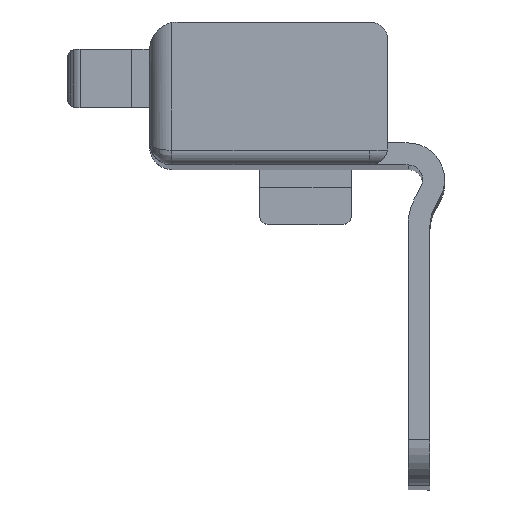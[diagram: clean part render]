
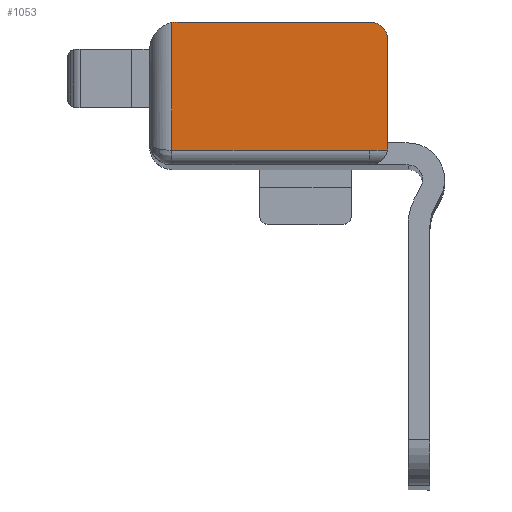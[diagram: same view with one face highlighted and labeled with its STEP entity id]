
A CAD part, top view. The second image highlights one B-rep face of the part: STEP entity #1053.
In plain terms, the highlighted planar face has unit normal (0, 0, 1).
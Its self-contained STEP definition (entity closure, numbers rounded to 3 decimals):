
#281 = PLANE ( 'NONE',  #1188 ) ;
#283 = CARTESIAN_POINT ( 'NONE',  ( 13., -5.9, 68.46 ) ) ;
#308 = CARTESIAN_POINT ( 'NONE',  ( 0., 26.2, 68.46 ) ) ;
#365 = DIRECTION ( 'NONE',  ( -1., 0., 0. ) ) ;
#615 = DIRECTION ( 'NONE',  ( 0., 0., -1. ) ) ;
#698 = CARTESIAN_POINT ( 'NONE',  ( 1.2, -11.9, 68.46 ) ) ;
#711 = CARTESIAN_POINT ( 'NONE',  ( 12., -11.9, 68.46 ) ) ;
#719 = CARTESIAN_POINT ( 'NONE',  ( 13., -11.7, 68.46 ) ) ;
#720 = CARTESIAN_POINT ( 'NONE',  ( 1.2, -4.93, 68.46 ) ) ;
#729 = CARTESIAN_POINT ( 'NONE',  ( 12., -4.9, 68.46 ) ) ;
#731 = CARTESIAN_POINT ( 'NONE',  ( 1.5, -4.9, 68.46 ) ) ;
#760 = CARTESIAN_POINT ( 'NONE',  ( 12.98, -11.9, 68.46 ) ) ;
#918 = DIRECTION ( 'NONE',  ( -1., 0., 0. ) ) ;
#921 = DIRECTION ( 'NONE',  ( 1., 0., 0. ) ) ;
#922 = CARTESIAN_POINT ( 'NONE',  ( -2., -11.9, 68.46 ) ) ;
#926 = DIRECTION ( 'NONE',  ( 1., 0., 0. ) ) ;
#927 = CARTESIAN_POINT ( 'NONE',  ( 0., -4.9, 68.46 ) ) ;
#928 = DIRECTION ( 'NONE',  ( 0., 0., -1. ) ) ;
#929 = DIRECTION ( 'NONE',  ( 0., -1., 0. ) ) ;
#930 = CARTESIAN_POINT ( 'NONE',  ( 1.5, -6.4, 68.46 ) ) ;
#931 = CARTESIAN_POINT ( 'NONE',  ( 12., -5.9, 68.46 ) ) ;
#932 = DIRECTION ( 'NONE',  ( 0., 0., -1. ) ) ;
#933 = CARTESIAN_POINT ( 'NONE',  ( 13., -16.645, 68.46 ) ) ;
#934 = DIRECTION ( 'NONE',  ( 0., -1., 0. ) ) ;
#935 = CARTESIAN_POINT ( 'NONE',  ( 1.2, -23.813, 68.46 ) ) ;
#936 = DIRECTION ( 'NONE',  ( 0., -1., 0. ) ) ;
#937 = DIRECTION ( 'NONE',  ( -1., 0., 0. ) ) ;
#938 = CARTESIAN_POINT ( 'NONE',  ( 12., -11.7, 68.46 ) ) ;
#940 = DIRECTION ( 'NONE',  ( 0., 0., 1. ) ) ;
#941 = DIRECTION ( 'NONE',  ( -1., 0., 0. ) ) ;
#988 = CARTESIAN_POINT ( 'NONE',  ( 0., -11.9, 68.46 ) ) ;
#1053 = ADVANCED_FACE ( 'NONE', ( #2066 ), #281, .F. ) ;
#1126 = AXIS2_PLACEMENT_3D ( 'NONE', #938, #940, #941 ) ;
#1127 = AXIS2_PLACEMENT_3D ( 'NONE', #930, #928, #934 ) ;
#1128 = AXIS2_PLACEMENT_3D ( 'NONE', #931, #932, #937 ) ;
#1188 = AXIS2_PLACEMENT_3D ( 'NONE', #308, #615, #365 ) ;
#1360 = EDGE_CURVE ( 'NONE', #2738, #2771, #1990, .T. ) ;
#1361 = EDGE_CURVE ( 'NONE', #2738, #2740, #1906, .T. ) ;
#1362 = EDGE_CURVE ( 'NONE', #2728, #2740, #1994, .T. ) ;
#1363 = EDGE_CURVE ( 'NONE', #2728, #2705, #1952, .T. ) ;
#1364 = EDGE_CURVE ( 'NONE', #2705, #2718, #1619, .T. ) ;
#1365 = EDGE_CURVE ( 'NONE', #2718, #2765, #1904, .T. ) ;
#1366 = EDGE_CURVE ( 'NONE', #2765, #2727, #1951, .T. ) ;
#1367 = EDGE_CURVE ( 'NONE', #2771, #2727, #1922, .T. ) ;
#1614 = ORIENTED_EDGE ( 'NONE', *, *, #1364, .T. ) ;
#1619 = LINE ( 'NONE', #988, #1894 ) ;
#1673 = ORIENTED_EDGE ( 'NONE', *, *, #1362, .F. ) ;
#1747 = ORIENTED_EDGE ( 'NONE', *, *, #1361, .T. ) ;
#1894 = VECTOR ( 'NONE', #921, 1000. ) ;
#1902 = ORIENTED_EDGE ( 'NONE', *, *, #1366, .T. ) ;
#1904 = LINE ( 'NONE', #922, #1929 ) ;
#1906 = LINE ( 'NONE', #927, #1911 ) ;
#1911 = VECTOR ( 'NONE', #918, 1000. ) ;
#1916 = VECTOR ( 'NONE', #936, 1000. ) ;
#1917 = ORIENTED_EDGE ( 'NONE', *, *, #1367, .F. ) ;
#1922 = LINE ( 'NONE', #933, #1916 ) ;
#1929 = VECTOR ( 'NONE', #926, 1000. ) ;
#1950 = VECTOR ( 'NONE', #929, 1000. ) ;
#1951 = CIRCLE ( 'NONE', #1126, 1. ) ;
#1952 = LINE ( 'NONE', #935, #1950 ) ;
#1990 = CIRCLE ( 'NONE', #1128, 1. ) ;
#1994 = CIRCLE ( 'NONE', #1127, 1.5 ) ;
#2040 = ORIENTED_EDGE ( 'NONE', *, *, #1360, .F. ) ;
#2064 = ORIENTED_EDGE ( 'NONE', *, *, #1363, .T. ) ;
#2066 = FACE_OUTER_BOUND ( 'NONE', #2843, .T. ) ;
#2083 = ORIENTED_EDGE ( 'NONE', *, *, #1365, .T. ) ;
#2705 = VERTEX_POINT ( 'NONE', #698 ) ;
#2718 = VERTEX_POINT ( 'NONE', #711 ) ;
#2727 = VERTEX_POINT ( 'NONE', #719 ) ;
#2728 = VERTEX_POINT ( 'NONE', #720 ) ;
#2738 = VERTEX_POINT ( 'NONE', #729 ) ;
#2740 = VERTEX_POINT ( 'NONE', #731 ) ;
#2765 = VERTEX_POINT ( 'NONE', #760 ) ;
#2771 = VERTEX_POINT ( 'NONE', #283 ) ;
#2843 = EDGE_LOOP ( 'NONE', ( #2040, #1747, #1673, #2064, #1614, #2083, #1902, #1917 ) ) ;
